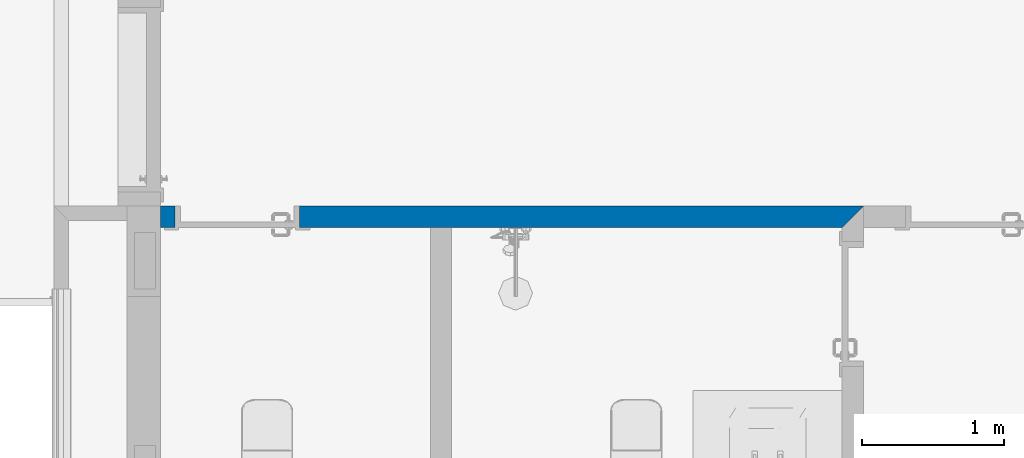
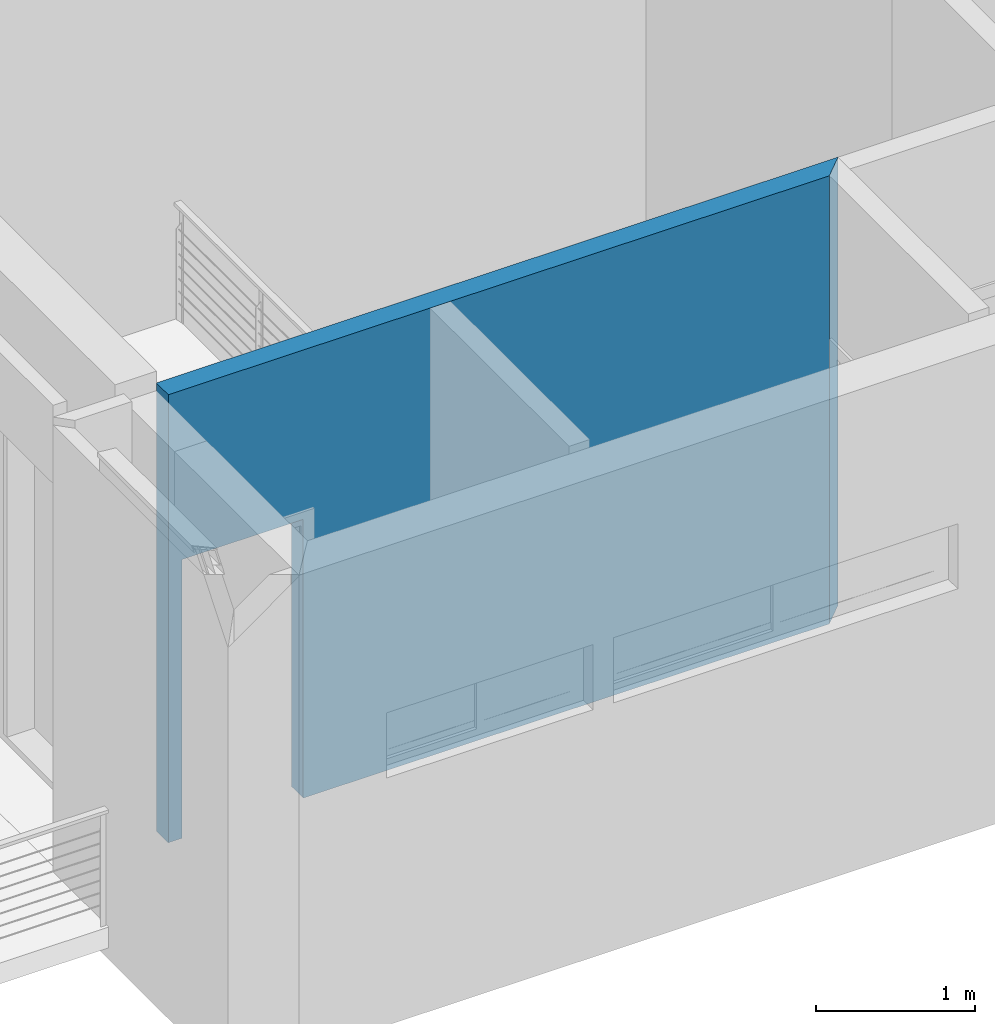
# One storey, part 3 of 26: 1 wall, 1 opening.
"""IFC2X3 building model written with IfcOpenShell, lengths in millimetres."""

from ifc_helpers import new_model, entity, si_unit, converted_unit, money_unit, direction, frame, origin_with_axes, origin_2d_with_axis, place, context, subcontext, project, spatial, polyline, rectangle, outline, extrude, material, layer, layer_set, layer_usage, type_object, element, save


model = new_model("IFC2X3")

# Units and contexts
model_context = context("Model", 3, precision=1e-05, world=origin_with_axes(), true_north=direction((0.0, 1.0)))
body_context = subcontext(model_context, "Body", "Model", "MODEL_VIEW")
ifc_project = project(units=[si_unit("LENGTHUNIT", "METRE", prefix="MILLI"), si_unit("AREAUNIT", "SQUARE_METRE"), si_unit("VOLUMEUNIT", "CUBIC_METRE"), converted_unit("PLANEANGLEUNIT", "DEGREE", entity("IfcPlaneAngleMeasure", 0.0174532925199), si_unit("PLANEANGLEUNIT", "RADIAN"), dimensions=[0, 0, 0, 0, 0, 0, 0]), si_unit("SOLIDANGLEUNIT", "STERADIAN"), money_unit("USD"), converted_unit("TIMEUNIT", "Year", entity("IfcTimeMeasure", 31556926.0), si_unit("TIMEUNIT", "SECOND"), dimensions=[0, 0, 0, 0, 0, 0, 0]), si_unit("MASSUNIT", "GRAM"), si_unit("THERMODYNAMICTEMPERATUREUNIT", "DEGREE_CELSIUS"), si_unit("LUMINOUSINTENSITYUNIT", "LUMEN")], contexts=[model_context])

# Site, building, storey
site_placement = place(None, origin_with_axes())
site = spatial("IfcSite", under=ifc_project, at=site_placement, Name="Grove Residential", CompositionType="ELEMENT")
building_placement = place(site_placement, origin_with_axes())
building = spatial("IfcBuilding", under=site, at=building_placement, Name="Building", CompositionType="ELEMENT")
storey_placement = place(building_placement, origin_with_axes())
storey = spatial("IfcBuildingStorey", under=building, at=storey_placement, Name="Ground Floor", CompositionType="ELEMENT", Elevation=0.0)

# Wall, opening
ifc_material_1 = material(Name="Wall Tiles")
ifc_layer_1 = layer(ifc_material_1, 12.5, ventilated="UNKNOWN")
ifc_material_2 = material(Name="Gypsum Plasterboard - Waterproof")
ifc_layer_2 = layer(ifc_material_2, 12.5, ventilated="UNKNOWN")
ifc_material_3 = material(Name="Air Space - Frame")
ifc_layer_3 = layer(ifc_material_3, 50.0, ventilated="UNKNOWN")
ifc_material_4 = material(Name="Insulation - Mineral Soft")
ifc_layer_4 = layer(ifc_material_4, 50.0, ventilated="UNKNOWN")
ifc_material_5 = material(Name="Gypsum Plasterboard")
ifc_layer_5 = layer(ifc_material_5, 12.5, ventilated="UNKNOWN")
ifc_layer_6 = layer(ifc_material_5, 12.5, ventilated="UNKNOWN")
ifc_layer_set = layer_set([ifc_layer_1, ifc_layer_2, ifc_layer_3, ifc_layer_4, ifc_layer_5, ifc_layer_6], Name="IWF-002")
ifc_layer_usage = layer_usage(ifc_layer_set, "AXIS2", "NEGATIVE", 150.0)
wall_type = type_object("IfcWallType", Name="IWF-002 150", PredefinedType="NOTDEFINED")
wall_placement = place(storey_placement, frame((5550.0, 2050.0, 0.0), z_axis=(0.0, 0.0, 1.0), x_axis=(-1.0, 0.0, 0.0)))
wall = element("IfcWallStandardCase", 1, at=wall_placement, inside=storey, type_object=wall_type, material=ifc_layer_usage, Name="SW - 001", context=body_context, shape_type="SweptSolid", body=[
    extrude(outline(polyline([(-150.0, 0.0), (4800.00006333, 0.0), (4800.00006333, 150.0), (0.0, 150.0), (-150.0, 0.0)])), origin_with_axes(), (0.0, 0.0, 1.0), 3440.0),
])
opening_placement = place(wall_placement, frame((4260.0, 0.0, 0.0), z_axis=(0.0, 0.0, 1.0), x_axis=(1.0, 0.0, 0.0)))
element("IfcOpeningElement", 2, at=opening_placement, cuts=wall, Name="D.01", context=body_context, shape_type="SweptSolid", body=[
    extrude(rectangle(XDim=880.0, YDim=2140.0, at=origin_2d_with_axis()), frame((0.0, 150.0, 1070.0), z_axis=(0.0, -1.0, 0.0), x_axis=(1.0, 0.0, 0.0)), (0.0, 0.0, 1.0), 450.0),
    extrude(rectangle(XDim=1024.0, YDim=2212.0, at=origin_2d_with_axis()), frame((0.0, 150.0, 1106.0), z_axis=(0.0, -1.0, 0.0), x_axis=(1.0, 0.0, 0.0)), (0.0, 0.0, -1.0), 150.0),
])

save(model, "model.ifc")
